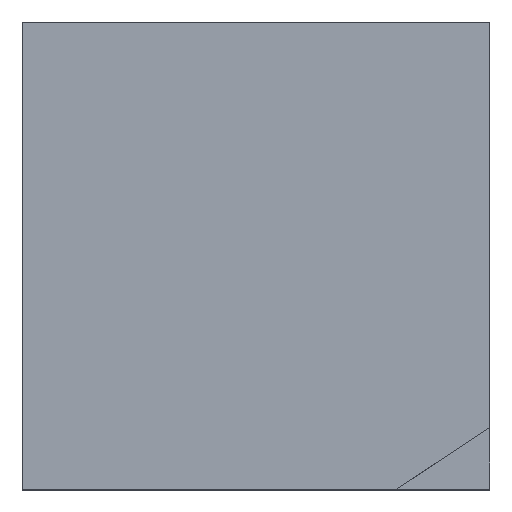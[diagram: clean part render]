
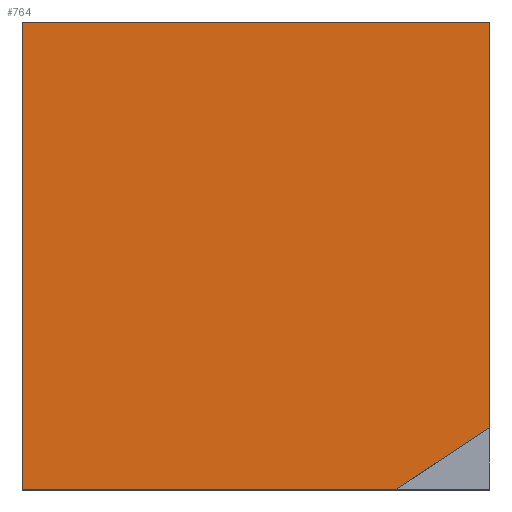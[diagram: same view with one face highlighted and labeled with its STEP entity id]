
A CAD part, top view. The second image highlights one B-rep face of the part: STEP entity #764.
In plain terms, the highlighted planar face has unit normal (0, 0, 1).
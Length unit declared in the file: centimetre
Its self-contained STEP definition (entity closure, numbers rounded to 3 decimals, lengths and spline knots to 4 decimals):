
#8 = VERTEX_POINT ( 'NONE', #196 ) ;
#40 = EDGE_CURVE ( 'NONE', #8, #318, #678, .T. ) ;
#108 = EDGE_CURVE ( 'NONE', #657, #267, #842, .T. ) ;
#110 = CARTESIAN_POINT ( 'NONE',  ( 0., 1000., 1000. ) ) ;
#151 = CARTESIAN_POINT ( 'NONE',  ( 1000., 131.9685, 1000. ) ) ;
#160 = CARTESIAN_POINT ( 'NONE',  ( 0., 1000., 1000. ) ) ;
#170 = DIRECTION ( 'NONE',  ( 0., -1., 0. ) ) ;
#174 = LINE ( 'NONE', #304, #497 ) ;
#196 = CARTESIAN_POINT ( 'NONE',  ( 0., 1000., 1000. ) ) ;
#235 = DIRECTION ( 'NONE',  ( -0.835, -0.551, 0. ) ) ;
#243 = LINE ( 'NONE', #247, #436 ) ;
#247 = CARTESIAN_POINT ( 'NONE',  ( 0., 0., 1000. ) ) ;
#253 = VECTOR ( 'NONE', #300, 100. ) ;
#267 = VERTEX_POINT ( 'NONE', #314 ) ;
#300 = DIRECTION ( 'NONE',  ( -1., 0., 0. ) ) ;
#304 = CARTESIAN_POINT ( 'NONE',  ( 1000., 1000., 1000. ) ) ;
#310 = VECTOR ( 'NONE', #170, 100. ) ;
#314 = CARTESIAN_POINT ( 'NONE',  ( 799.8827, 0., 1000. ) ) ;
#318 = VERTEX_POINT ( 'NONE', #351 ) ;
#343 = DIRECTION ( 'NONE',  ( 0., 0., 1. ) ) ;
#351 = CARTESIAN_POINT ( 'NONE',  ( 0., 0., 1000. ) ) ;
#359 = EDGE_CURVE ( 'NONE', #395, #8, #361, .T. ) ;
#361 = LINE ( 'NONE', #160, #253 ) ;
#367 = VECTOR ( 'NONE', #235, 100. ) ;
#376 = DIRECTION ( 'NONE',  ( 0., 1., 0. ) ) ;
#391 = ORIENTED_EDGE ( 'NONE', *, *, #359, .T. ) ;
#395 = VERTEX_POINT ( 'NONE', #787 ) ;
#398 = PLANE ( 'NONE',  #423 ) ;
#423 = AXIS2_PLACEMENT_3D ( 'NONE', #599, #343, #666 ) ;
#436 = VECTOR ( 'NONE', #516, 100. ) ;
#497 = VECTOR ( 'NONE', #376, 100. ) ;
#516 = DIRECTION ( 'NONE',  ( 1., 0., 0. ) ) ;
#521 = EDGE_CURVE ( 'NONE', #318, #267, #243, .T. ) ;
#537 = FACE_OUTER_BOUND ( 'NONE', #691, .T. ) ;
#578 = ORIENTED_EDGE ( 'NONE', *, *, #521, .T. ) ;
#599 = CARTESIAN_POINT ( 'NONE',  ( 0., 0., 1000. ) ) ;
#657 = VERTEX_POINT ( 'NONE', #151 ) ;
#666 = DIRECTION ( 'NONE',  ( 1., 0., 0. ) ) ;
#678 = LINE ( 'NONE', #110, #310 ) ;
#691 = EDGE_LOOP ( 'NONE', ( #730, #807, #391, #853, #578 ) ) ;
#730 = ORIENTED_EDGE ( 'NONE', *, *, #108, .F. ) ;
#731 = EDGE_CURVE ( 'NONE', #657, #395, #174, .T. ) ;
#764 = ADVANCED_FACE ( 'NONE', ( #537 ), #398, .T. ) ;
#787 = CARTESIAN_POINT ( 'NONE',  ( 1000., 1000., 1000. ) ) ;
#807 = ORIENTED_EDGE ( 'NONE', *, *, #731, .T. ) ;
#842 = LINE ( 'NONE', #847, #367 ) ;
#847 = CARTESIAN_POINT ( 'NONE',  ( 1000., 131.9685, 1000. ) ) ;
#853 = ORIENTED_EDGE ( 'NONE', *, *, #40, .T. ) ;
